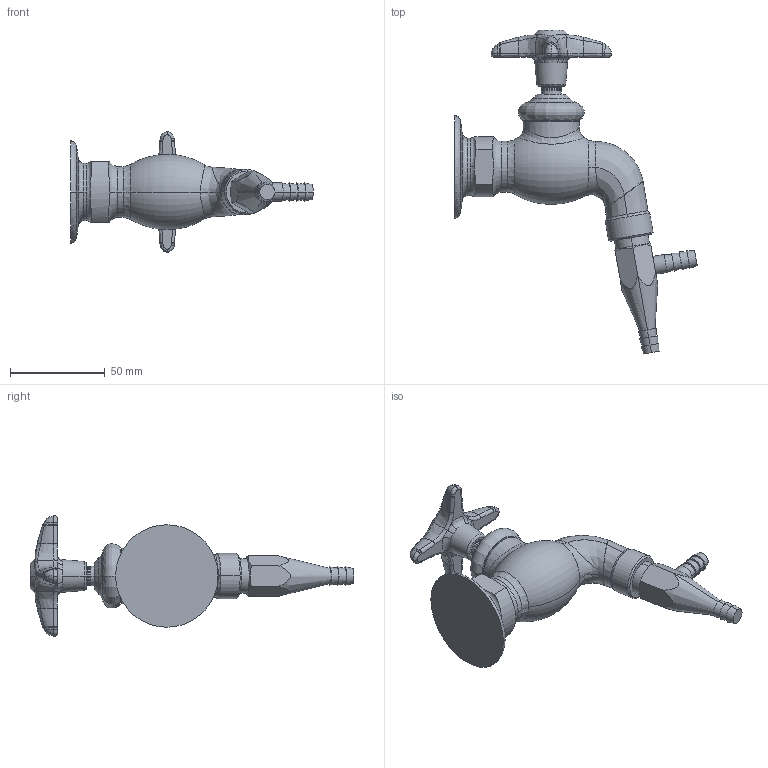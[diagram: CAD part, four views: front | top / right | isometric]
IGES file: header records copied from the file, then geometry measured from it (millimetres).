
Start section:  PTC IGES file: LWV3-C34.igs
Global section: file name: LWV3-C34.igs; native system: Creo Parametric by PTC Inc.; preprocessor: 2014500; author: usch_engrender; organization: Unknown; date: 20150910.122307; units: inch
Bounding box: 127.69 x 170.57 x 63.42 mm (x, y, z)
Volume: 133321.6 mm3; surface area: 26526 mm2
Topology: 1 solids, 3 shells, 277 faces, 606 edges, 349 vertices
Faces by surface type: bspline 181, revolution 96
